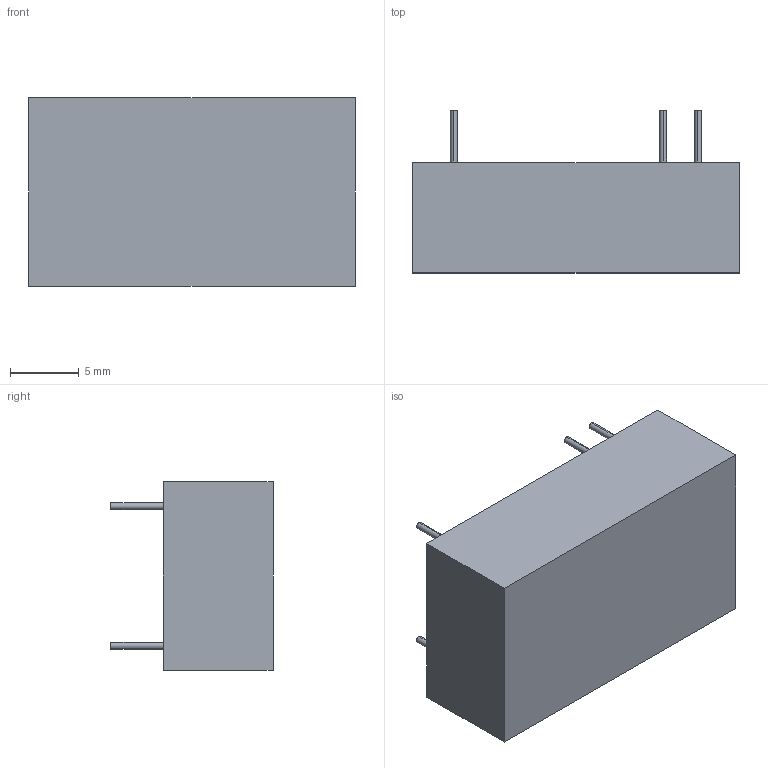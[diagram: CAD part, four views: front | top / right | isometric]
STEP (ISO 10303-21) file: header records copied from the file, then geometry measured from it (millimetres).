
FILE_DESCRIPTION (( 'STEP AP214' ), '1' );
FILE_NAME ('MDW10_20240216.STEP', '2024-02-16T09:58:35', ( '' ), ( '' ), 'SwSTEP 2.0', 'SolidWorks 2021', '' );
FILE_SCHEMA (( 'AUTOMOTIVE_DESIGN' ));
Length unit declared in the file: millimetre
Products named in the file (1): MDW10_20240216
Bounding box: 23.8 x 11.8 x 13.7 mm (x, y, z)
Volume: 2613 mm3; surface area: 1287.9 mm2
Topology: 1 solids, 1 shells, 24 faces, 48 edges, 32 vertices
Faces by surface type: cylinder 12, plane 12
Entity records: 670 total; most frequent: DIRECTION 122, CARTESIAN_POINT 105, ORIENTED_EDGE 96, AXIS2_PLACEMENT_3D 49, EDGE_CURVE 48, VERTEX_POINT 32, EDGE_LOOP 30, ADVANCED_FACE 24
